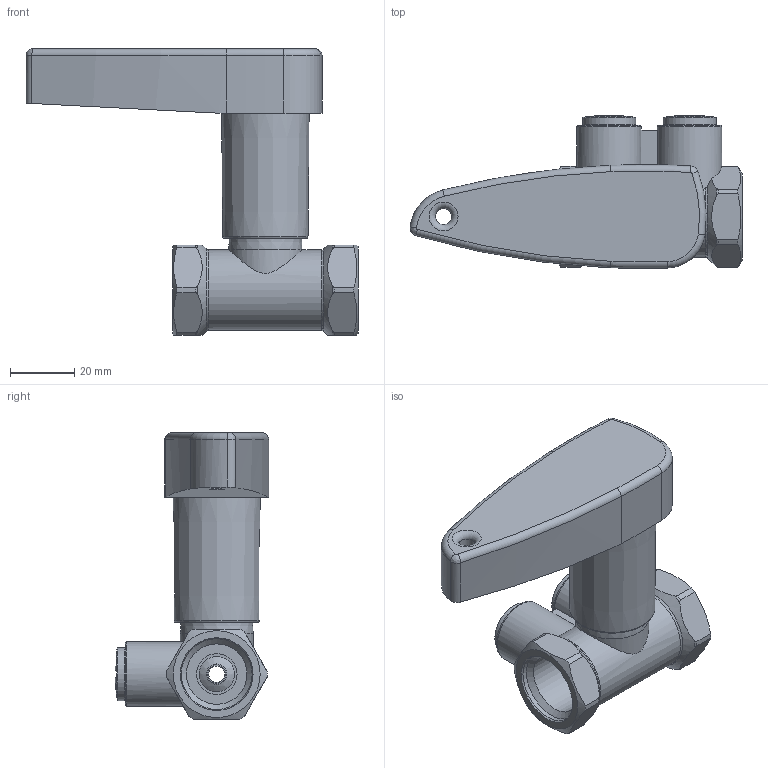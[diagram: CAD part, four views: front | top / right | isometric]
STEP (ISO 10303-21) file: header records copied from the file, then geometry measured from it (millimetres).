
FILE_DESCRIPTION(/* description */ (''),/* implementation_level */ '2;1');
FILE_NAME(/* name */ '\\dataserver\data\Nexus Valves\Inventor\2021_NexusValves Cad\3_Relax\nexus_relax_dn15.stp',/* time_stamp */ '2021-09-03T11:29:24+02:00',/* author */ ('kasius'),/* organization */ (''),/* preprocessor_version */ 'ST-DEVELOPER v17',/* originating_system */ 'Autodesk Inventor 2018',/* authorisation */ '');
FILE_SCHEMA (('AUTOMOTIVE_DESIGN { 1 0 10303 214 3 1 1 }'));
Length unit declared in the file: millimetre
Products named in the file (1): nexus_vertex_dn10
Bounding box: 103.22 x 47.62 x 89 mm (x, y, z)
Volume: 101614.6 mm3; surface area: 24112.1 mm2
Topology: 3 solids, 3 shells, 135 faces, 374 edges, 259 vertices
Faces by surface type: plane 42, cylinder 41, torus 23, cone 19, bspline 8, sphere 2
Full cylindrical faces by diameter (mm): 4.995 x1, 5 x1, 11 x4, 12.649 x1, 15.6 x1, 16.5 x2, 18.8 x2, 20 x2, 22 x2, 22.711 x1
Entity records: 5078 total; most frequent: CARTESIAN_POINT 1527, DIRECTION 752, ORIENTED_EDGE 748, EDGE_CURVE 374, AXIS2_PLACEMENT_3D 336, VERTEX_POINT 259, CIRCLE 199, EDGE_LOOP 153
